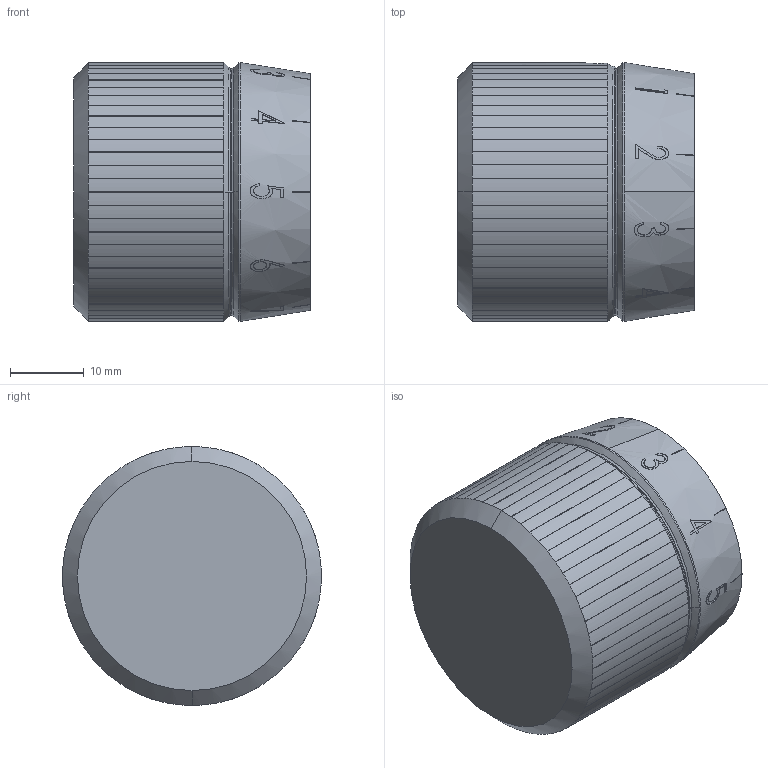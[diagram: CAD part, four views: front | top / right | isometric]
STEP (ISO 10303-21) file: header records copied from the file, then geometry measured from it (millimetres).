
FILE_DESCRIPTION (( 'STEP AP214' ), '1' );
FILE_NAME ('D.STEP', '2017-03-23T06:28:58', ( '' ), ( '' ), 'SwSTEP 2.0', 'SolidWorks 2016', '' );
FILE_SCHEMA (( 'AUTOMOTIVE_DESIGN' ));
Length unit declared in the file: millimetre
Products named in the file (1): D
Bounding box: 32 x 35 x 35 mm (x, y, z)
Volume: 22073.5 mm3; surface area: 6778.3 mm2
Topology: 2 solids, 2 shells, 735 faces, 2103 edges, 1384 vertices
Faces by surface type: plane 499, bspline 120, cylinder 76, cone 36, torus 4
Entity records: 46151 total; most frequent: CARTESIAN_POINT 20801, ORIENTED_EDGE 4194, DIRECTION 2739, EDGE_CURVE 2097, VERTEX_POINT 1384, AXIS2_PLACEMENT_3D 992, B_SPLINE_CURVE_WITH_KNOTS 944, LINE 755
